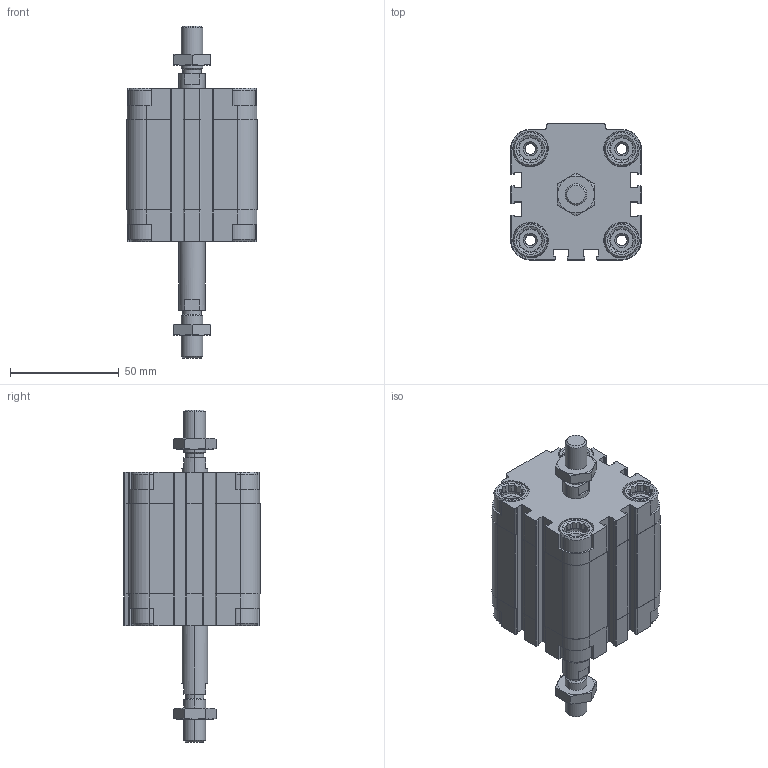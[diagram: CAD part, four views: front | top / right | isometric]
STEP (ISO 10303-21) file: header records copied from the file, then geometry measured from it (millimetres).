
FILE_DESCRIPTION (( 'STEP AP203' ), '1' );
FILE_NAME ('CDVU40-25M-P.STEP', '2020-07-21T15:16:28', ( '' ), ( '' ), 'SwSTEP 2.0', 'SolidWorks 2019', '' );
FILE_SCHEMA (( 'CONFIG_CONTROL_DESIGN' ));
Length unit declared in the file: millimetre
Products named in the file (1): CDVU40-25M-P
Bounding box: 60 x 62.5 x 152.5 mm (x, y, z)
Volume: 204267.9 mm3; surface area: 56240.8 mm2
Topology: 4 solids, 4 shells, 758 faces, 2004 edges, 1290 vertices
Faces by surface type: plane 438, cylinder 240, cone 80
Entity records: 24115 total; most frequent: CARTESIAN_POINT 5193, ORIENTED_EDGE 4000, DIRECTION 3862, EDGE_CURVE 2000, AXIS2_PLACEMENT_3D 1319, VERTEX_POINT 1290, VECTOR 1224, LINE 1224
